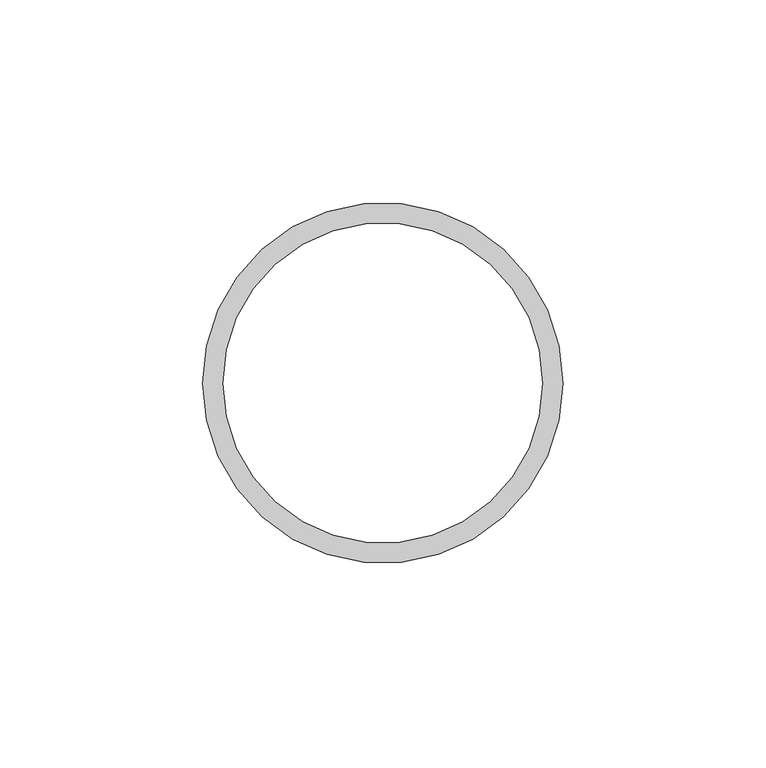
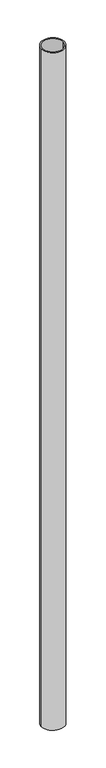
"""IFC4 building model written with IfcOpenShell, lengths in millimetres: column geometry, NLRS_28_SC_TLB_kolom buis_generiek_ISR : ø88.9x5 ."""

from ifc_helpers import new_model, si_unit, point, frame, origin, origin_2d, place, context, project, spatial, circle_curve, trimmed, segment, composite_curve, outline, extrude, source, transform, mapped, element, save


def column_689e1651(model_context):
    return source(origin(), model_context, "Body", "SweptSolid", [
        extrude(outline(composite_curve([segment(trimmed(circle_curve(origin_2d(), 44.45), [point((44.45, 0.0))], [point((-44.45, 0.0))], False, "CARTESIAN"), True, "CONTINUOUS"), segment(trimmed(circle_curve(origin_2d(), 44.45), [point((-44.45, 0.0))], [point((44.45, 0.0))], False, "CARTESIAN"), True, "CONTINUOUS")], self_intersect=False), holes=[composite_curve([segment(trimmed(circle_curve(origin_2d(), 39.45), [point((39.45, 0.0))], [point((-39.45, 0.0))], True, "CARTESIAN"), True, "CONTINUOUS"), segment(trimmed(circle_curve(origin_2d(), 39.45), [point((-39.45, 0.0))], [point((39.45, 0.0))], True, "CARTESIAN"), True, "CONTINUOUS")], self_intersect=False)]), frame((0.0, 0.0, 3500.0), z_axis=(0.0, 0.0, 1.0), x_axis=(1.0, 0.0, 0.0)), (0.0, 0.0, 1.0), 2800.0),
    ])


if __name__ == "__main__":
    model = new_model("IFC4")
    model_context = context("Model", 3, world=origin())
    ifc_project = project(units=[si_unit("LENGTHUNIT", "METRE", prefix="MILLI")], contexts=[model_context])
    site = spatial("IfcSite", under=ifc_project)
    building = spatial("IfcBuilding", under=site)
    placement = place(None, origin())
    column_shape = column_689e1651(model_context)
    element("IfcColumn", 1, ObjectType="NLRS_28_SC_TLB_kolom buis_generiek_ISR : ø88.9x5 ", at=placement, inside=building, context=model_context, shape_type="MappedRepresentation", body=[
        mapped(column_shape, transform((0.0, 0.0, 0.0), x_axis=(1.0, 0.0, 0.0), y_axis=(0.0, 1.0, 0.0), z_axis=(0.0, 0.0, 1.0))),
    ])
    save(model, "model.ifc")
